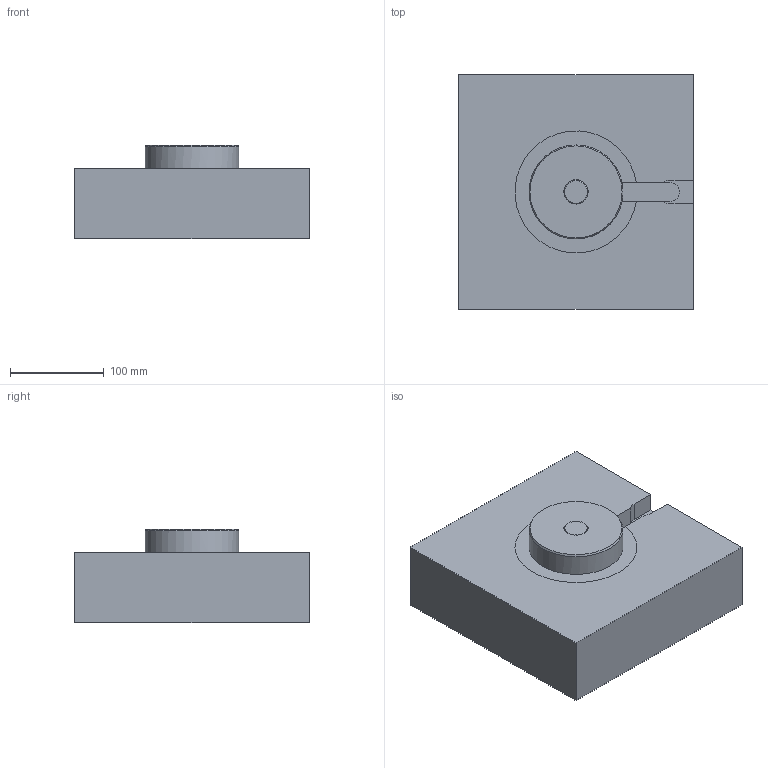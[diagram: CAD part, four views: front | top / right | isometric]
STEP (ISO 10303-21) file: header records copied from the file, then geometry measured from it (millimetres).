
FILE_DESCRIPTION( ( 'STEP AP214' ), '1' );
FILE_NAME( 'S:/PROIECTE_YUDO_2009_dupa_1.07.2009/PROIECTE YUDO 3D 01.07.2009/BLS/YUEU09-BLS15CC045/YUEU09-BLS18CC045.step', '2009-07-14T06:21:56', ( ' ' ), ( ' ' ), 'XStep 1.0', ' ', ' ' );
FILE_SCHEMA( ( 'automotive_design' ) );
Length unit declared in the file: millimetre
Products named in the file (4): 1; 2; 3; 4
Bounding box: 250 x 250 x 100 mm (x, y, z)
Volume: 4781880.4 mm3; surface area: 275897 mm2
Topology: 4 solids, 4 shells, 113 faces, 267 edges, 172 vertices
Faces by surface type: plane 59, cylinder 36, cone 13, torus 3, bspline 2
Full cylindrical faces by diameter (mm): 14 x1, 18 x1, 18.08 x1, 21.134 x1, 22.9 x1, 25 x3, 27.2 x1, 32 x1, 33 x1, 37 x1, 40 x1, 53 x1, 54 x2, 100 x1
Entity records: 4093 total; most frequent: CARTESIAN_POINT 660, DIRECTION 522, ORIENTED_EDGE 456, EDGE_CURVE 228, AXIS2_PLACEMENT_3D 205, VERTEX_POINT 167, EDGE_LOOP 161, FACE_OUTER_BOUND 135
